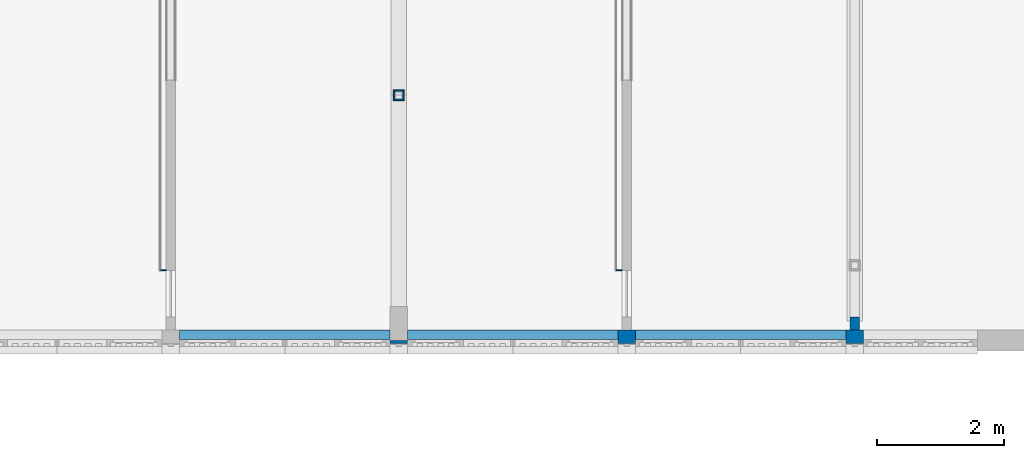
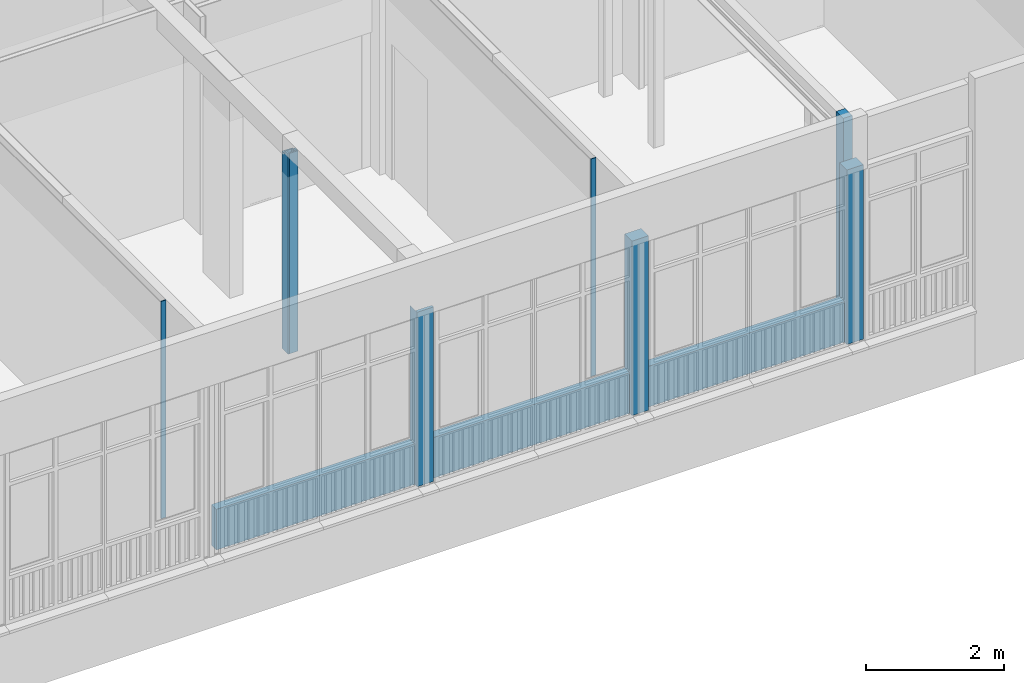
# One storey, part 93 of 135: 13 walls.
"""IFC2X3 building model written with IfcOpenShell, lengths in millimetres."""

from ifc_helpers import new_model, entity, si_unit, converted_unit, derived_unit, money_unit, direction, frame, origin_with_axes, place, context, subcontext, project, spatial, faceted_brep, material, type_object, element, save


model = new_model("IFC2X3")

# Units and contexts
model_context = context("Model", 3, precision=0.01, world=origin_with_axes(), true_north=direction((0.0, 1.0)))
body_context = subcontext(model_context, "Body", "Model", "MODEL_VIEW")
ifc_project = project(units=[si_unit("LENGTHUNIT", "METRE", prefix="MILLI"), si_unit("AREAUNIT", "SQUARE_METRE"), si_unit("VOLUMEUNIT", "CUBIC_METRE"), converted_unit("PLANEANGLEUNIT", "DEGREE", entity("IfcPlaneAngleMeasure", 0.0174532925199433), si_unit("PLANEANGLEUNIT", "RADIAN"), dimensions=[0, 0, 0, 0, 0, 0, 0]), money_unit("EUR"), converted_unit("TIMEUNIT", "Year", entity("IfcTimeMeasure", 31557600.0), si_unit("TIMEUNIT", "SECOND"), dimensions=[0, 0, 1, 0, 0, 0, 0]), si_unit("MASSUNIT", "GRAM", prefix="KILO"), si_unit("THERMODYNAMICTEMPERATUREUNIT", "DEGREE_CELSIUS"), si_unit("LUMINOUSINTENSITYUNIT", "LUMEN"), si_unit("ENERGYUNIT", "JOULE", prefix="MEGA"), derived_unit("THERMALCONDUCTANCEUNIT", [(si_unit("POWERUNIT", "WATT"), 1), (si_unit("LENGTHUNIT", "METRE"), -1), (si_unit("THERMODYNAMICTEMPERATUREUNIT", "KELVIN"), -1)]), derived_unit("SPECIFICHEATCAPACITYUNIT", [(si_unit("ENERGYUNIT", "JOULE"), 1), (si_unit("MASSUNIT", "GRAM", prefix="KILO"), -1), (si_unit("THERMODYNAMICTEMPERATUREUNIT", "KELVIN"), -1)]), derived_unit("MASSDENSITYUNIT", [(si_unit("MASSUNIT", "GRAM", prefix="KILO"), 1), (si_unit("VOLUMEUNIT", "CUBIC_METRE"), -1)])], contexts=[model_context])

# Site, building, storey
site_placement = place(None, origin_with_axes())
site = spatial("IfcSite", under=ifc_project, at=site_placement, Name="Site", CompositionType="ELEMENT")
building_placement = place(site_placement, origin_with_axes())
building = spatial("IfcBuilding", under=site, at=building_placement, Name="Naam gebouw", CompositionType="ELEMENT")
storey_placement = place(building_placement, origin_with_axes())
storey = spatial("IfcBuildingStorey", under=building, at=storey_placement, Name="Begane grond N", CompositionType="ELEMENT", Elevation=0.0)

# Walls
ifc_material_1 = material(Name="ALG - CONSTRUCTIEF")
wall_type_1 = type_object("IfcWallType", Name="ALG - CONSTRUCTIEF 150", PredefinedType="NOTDEFINED")
wall_1_placement = place(storey_placement, frame((54000.0, 10825.91242510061, -100.0), z_axis=(0.0, 0.0, 1.0), x_axis=(0.0, 1.0, 0.0)))
element("IfcWall", 1, at=wall_1_placement, inside=storey, type_object=wall_type_1, material=ifc_material_1, Name="_Wand-x", context=body_context, shape_type="Brep", body=[
    faceted_brep([(374.9999999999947, 75.00000000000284, 100.0), (374.9999999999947, 75.00000000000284, 3950.0), (374.9999999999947, -75.00000000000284, 3950.0), (374.9999999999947, -75.00000000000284, 100.0), (165.0000000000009, 75.00000000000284, 100.0), (164.9999999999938, 75.00000000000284, 3950.0), (164.9999999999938, -75.00000000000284, 3950.0), (165.0000000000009, -75.00000000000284, 100.0)], [[[0, 1, 2, 3]], [[4, 5, 1, 0]], [[5, 6, 2, 1]], [[3, 2, 6, 7]], [[4, 0, 3, 7]], [[7, 6, 5, 4]]]),
])
wall_type_2 = type_object("IfcWallType", Name="ALG - CONSTRUCTIEF 146", PredefinedType="NOTDEFINED")
wall_2_placement = place(storey_placement, frame((50262.49999999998, 10990.91242510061, 0.0), z_axis=(0.0, 0.0, 1.0), x_axis=(-1.0, 0.0, 0.0)))
element("IfcWall", 2, at=wall_2_placement, inside=storey, type_object=wall_type_2, material=ifc_material_1, Name="_Wand-x", context=body_context, shape_type="Brep", body=[
    faceted_brep([(0.0, 146.0000000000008, 0.0), (3323.134820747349, 145.999999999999, 0.0), (3323.134820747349, 0.0, 0.0), (0.0, 0.0, 0.0), (0.0, 146.0000000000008, 720.0000000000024), (3323.134820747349, 145.999999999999, 720.0000000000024), (3323.134820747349, 0.0, 720.0000000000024), (0.0, 0.0, 720.0000000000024)], [[[0, 1, 2, 3]], [[4, 5, 1, 0]], [[2, 1, 5, 6]], [[3, 2, 6, 7]], [[4, 0, 3, 7]], [[7, 6, 5, 4]]]),
])
wall_3_placement = place(storey_placement, frame((46662.49999999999, 10990.91242510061, 0.0), z_axis=(0.0, 0.0, 1.0), x_axis=(-1.0, 0.0, 0.0)))
element("IfcWall", 3, at=wall_3_placement, inside=storey, type_object=wall_type_2, material=ifc_material_1, Name="_Wand-x", context=body_context, shape_type="Brep", body=[
    faceted_brep([(0.0, 146.0000000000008, 0.0), (3325.00000000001, 145.999999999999, 0.0), (3325.00000000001, 0.0, 0.0), (0.0, 0.0, 0.0), (0.0, 146.0000000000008, 720.0000000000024), (3325.00000000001, 145.999999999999, 720.0000000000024), (3325.00000000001, 0.0, 720.0000000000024), (0.0, 0.0, 720.0000000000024)], [[[0, 1, 2, 3]], [[4, 5, 1, 0]], [[2, 1, 5, 6]], [[3, 2, 6, 7]], [[4, 0, 3, 7]], [[7, 6, 5, 4]]]),
])
wall_4_placement = place(storey_placement, frame((53862.49999999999, 10990.91242510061, 0.0), z_axis=(0.0, 0.0, 1.0), x_axis=(-1.0, 0.0, 0.0)))
element("IfcWall", 4, at=wall_4_placement, inside=storey, type_object=wall_type_2, material=ifc_material_1, Name="_Wand-x", context=body_context, shape_type="Brep", body=[
    faceted_brep([(0.0, 146.0000000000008, 0.0), (3324.999999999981, 145.999999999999, 0.0), (3324.999999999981, 0.0, 0.0), (0.0, 0.0, 0.0), (0.0, 146.0000000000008, 720.0000000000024), (3324.999999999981, 145.999999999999, 720.0000000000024), (3324.999999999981, 0.0, 720.0000000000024), (0.0, 0.0, 720.0000000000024)], [[[0, 1, 2, 3]], [[4, 5, 1, 0]], [[2, 1, 5, 6]], [[3, 2, 6, 7]], [[4, 0, 3, 7]], [[7, 6, 5, 4]]]),
])
ifc_material_2 = material(Name="Gipsplaat")
wall_type_3 = type_object("IfcWallType", Name="Metalstud 100 enkel 100", PredefinedType="NOTDEFINED")
for number, where, z_axis, x_axis, name in (
    (5, (43125.0, 11930.91242510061, 0.0), (0.0, 0.0, 1.0), (-1.0, 0.0, 0.0), "_Wand-x"),
    (6, (50324.99999999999, 11930.91242510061, 0.0), (0.0, 0.0, 1.0), (-1.0, 0.0, 0.0), "_Wand-x"),
):
    element("IfcWall", number, at=place(storey_placement, frame(where, z_axis=z_axis, x_axis=x_axis)), inside=storey, type_object=wall_type_3, material=ifc_material_2, Name=name, context=body_context, shape_type="Brep", body=[
        faceted_brep([(87.49999999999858, -12.49999999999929, 0.0), (87.49999999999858, -12.49999999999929, 3850.0), (0.0, -12.49999999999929, 3850.0), (0.0, -12.49999999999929, 0.0), (87.49999999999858, 0.0, 0.0), (87.49999999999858, 0.0, 3850.0), (0.0, 0.0, 3850.0), (0.0, 0.0, 0.0)], [[[0, 1, 2, 3]], [[4, 5, 1, 0]], [[5, 6, 2, 1]], [[3, 2, 6, 7]], [[7, 4, 0, 3]], [[7, 6, 5, 4]]]),
    ])
wall_type_4 = type_object("IfcWallType", Name="Gipsplaat 25", PredefinedType="NOTDEFINED")
wall_5_placement = place(storey_placement, frame((46885.0, 14614.30701541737, 0.0), z_axis=(0.0, 0.0, 1.0), x_axis=(0.0, 1.0, 0.0)))
element("IfcWall", 7, at=wall_5_placement, inside=storey, type_object=wall_type_4, material=ifc_material_2, Name="_Wand-x", context=body_context, shape_type="Brep", body=[
    faceted_brep([(145.0000000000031, 25.00000000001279, 0.0), (145.0000000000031, 25.00000000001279, 3500.0), (145.0000000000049, 0.0, 3500.0), (145.0000000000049, 0.0, 0.0), (85.5350304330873, 25.00000000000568, 3550.0), (85.5350304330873, 25.00000000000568, 3500.0), (25.00000000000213, 24.99999999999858, 0.0), (25.00000000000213, 24.99999999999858, 3550.0), (85.53503043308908, 0.0, 3500.0), (85.53503043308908, 0.0, 3550.0), (25.00000000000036, 0.0, 3550.0), (25.00000000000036, 0.0, 0.0)], [[[0, 1, 2, 3]], [[4, 5, 1, 0, 6, 7]], [[5, 8, 2, 1]], [[2, 8, 9, 10, 11, 3]], [[6, 0, 3, 11]], [[5, 4, 9, 8]], [[10, 7, 6, 11]], [[10, 9, 4, 7]]]),
])
wall_6_placement = place(storey_placement, frame((46715.0, 14614.30701541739, 0.0), z_axis=(0.0, 0.0, 1.0), x_axis=(1.0, 0.0, 0.0)))
element("IfcWall", 8, at=wall_6_placement, inside=storey, type_object=wall_type_4, material=ifc_material_2, Name="_Wand-x", context=body_context, shape_type="Brep", body=[
    faceted_brep([(169.9999999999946, 25.00000000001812, 0.0), (169.9999999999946, 0.0, 0.0), (24.99999999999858, 0.0, 0.0), (24.99999999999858, 25.00000000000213, 0.0), (169.9999999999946, 25.00000000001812, 3550.0), (169.9999999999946, 0.0, 3550.0), (24.99999999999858, 0.0, 3550.0), (24.99999999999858, 25.00000000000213, 3550.0)], [[[0, 1, 2, 3]], [[1, 0, 4, 5]], [[1, 5, 6, 2]], [[7, 3, 2, 6]], [[4, 0, 3, 7]], [[5, 4, 7, 6]]]),
])
wall_7_placement = place(storey_placement, frame((46715.0, 14614.30701541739, 0.0), z_axis=(0.0, 0.0, 1.0), x_axis=(0.0, 1.0, 0.0)))
element("IfcWall", 9, at=wall_7_placement, inside=storey, type_object=wall_type_4, material=ifc_material_2, Name="_Wand-x", context=body_context, shape_type="Brep", body=[
    faceted_brep([(169.999999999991, 0.0, 0.0), (169.999999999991, 0.0, 3500.0), (169.999999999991, -24.99999999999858, 3500.0), (169.999999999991, -24.99999999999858, 0.0), (85.53503043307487, 0.0, 3550.0), (85.53503043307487, 0.0, 3500.0), (0.0, 0.0, 0.0), (0.0, 0.0, 3550.0), (85.53503043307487, -24.99999999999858, 3500.0), (85.53503043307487, -24.99999999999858, 3550.0), (0.0, -24.99999999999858, 3550.0), (0.0, -24.99999999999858, 0.0)], [[[0, 1, 2, 3]], [[4, 5, 1, 0, 6, 7]], [[5, 8, 2, 1]], [[2, 8, 9, 10, 11, 3]], [[6, 0, 3, 11]], [[5, 4, 9, 8]], [[6, 11, 10, 7]], [[10, 9, 4, 7]]]),
])
wall_8_placement = place(storey_placement, frame((46715.0, 14784.30701541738, 0.0), z_axis=(0.0, 0.0, 1.0), x_axis=(1.0, 0.0, 0.0)))
element("IfcWall", 10, at=wall_8_placement, inside=storey, type_object=wall_type_4, material=ifc_material_2, Name="_Wand-x", context=body_context, shape_type="Brep", body=[
    faceted_brep([(24.99999999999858, 0.0, 0.0), (24.99999999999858, 0.0, 3500.0), (170.0000000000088, 0.0, 3500.0), (170.0000000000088, 0.0, 0.0), (24.99999999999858, -25.00000000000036, 0.0), (24.99999999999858, -25.00000000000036, 3500.0), (170.0000000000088, -25.00000000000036, 3500.0), (170.0000000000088, -25.00000000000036, 0.0)], [[[0, 1, 2, 3]], [[4, 5, 1, 0]], [[5, 6, 2, 1]], [[3, 2, 6, 7]], [[0, 3, 7, 4]], [[7, 6, 5, 4]]]),
])
ifc_material_3 = material(Name="ALG - GEVEL")
wall_type_5 = type_object("IfcWallType", Name="ALG - GEVEL 260", PredefinedType="NOTDEFINED")
wall_9_placement = place(storey_placement, frame((50537.49999999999, 10730.9124251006, 0.0), z_axis=(0.0, 0.0, 1.0), x_axis=(-1.0, 0.0, 0.0)))
element("IfcWall", 11, at=wall_9_placement, inside=storey, type_object=wall_type_5, material=ifc_material_3, Name="_Wand-x", context=body_context, shape_type="Brep", body=[
    faceted_brep([(275.0000000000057, -44.00000000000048, 3090.000000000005), (0.0, -44.00000000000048, 3090.000000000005), (0.0, -259.9999999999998, 3090.0), (275.0000000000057, -259.9999999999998, 3090.0), (275.0000000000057, -44.00000000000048, 0.0), (0.0, -44.00000000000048, 0.0), (0.0, -259.9999999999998, 0.0), (275.0000000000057, -259.9999999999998, 0.0)], [[[0, 1, 2, 3]], [[0, 4, 5, 1]], [[2, 1, 5, 6]], [[2, 6, 7, 3]], [[7, 4, 0, 3]], [[5, 4, 7, 6]]]),
])
wall_10_placement = place(storey_placement, frame((46937.5, 10730.9124251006, 0.0), z_axis=(0.0, 0.0, 1.0), x_axis=(-1.0, 0.0, 0.0)))
element("IfcWall", 12, at=wall_10_placement, inside=storey, type_object=wall_type_5, material=ifc_material_3, Name="_Wand-x", context=body_context, shape_type="Brep", body=[
    faceted_brep([(274.9990737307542, -95.49982574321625, 0.0), (275.0000000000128, -44.00000000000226, 0.0), (275.0000000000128, -44.00000000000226, 3090.000000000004), (274.9990737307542, -95.49982574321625, 3089.999999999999), (0.0, -44.00000000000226, 0.0), (0.0, -94.55057574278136, 0.0), (0.0, -44.00000000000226, 3090.000000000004), (0.0, -94.55057574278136, 3089.999999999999)], [[[0, 1, 2, 3]], [[4, 1, 0, 5]], [[6, 2, 1, 4]], [[7, 3, 2, 6]], [[5, 0, 3, 7]], [[6, 4, 5, 7]]]),
    faceted_brep([(274.4312471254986, -259.9999999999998, 3089.999999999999), (274.9990737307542, -95.49982574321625, 3089.999999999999), (274.9990737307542, -95.49982574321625, 0.0), (274.4312471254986, -259.9999999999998, 0.0), (275.0000000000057, -259.9999999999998, 3089.999999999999), (275.0000000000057, -259.9999999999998, 0.0)], [[[0, 1, 2, 3]], [[0, 4, 1]], [[5, 2, 1, 4]], [[5, 3, 2]], [[3, 5, 4, 0]]]),
])
wall_11_placement = place(storey_placement, frame((54137.49999999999, 10730.9124251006, 0.0), z_axis=(0.0, 0.0, 1.0), x_axis=(-1.0, 0.0, 0.0)))
element("IfcWall", 13, at=wall_11_placement, inside=storey, type_object=wall_type_5, material=ifc_material_3, Name="_Wand-x", context=body_context, shape_type="Brep", body=[
    faceted_brep([(274.9999999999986, -44.00000000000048, 3090.000000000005), (0.0, -44.00000000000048, 3090.000000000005), (0.0, -259.9999999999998, 3090.0), (275.0000000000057, -259.9999999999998, 3090.0), (274.9999999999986, -44.00000000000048, 0.0), (0.0, -44.00000000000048, 0.0), (0.0, -259.9999999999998, 0.0), (275.0000000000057, -259.9999999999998, 0.0)], [[[0, 1, 2, 3]], [[0, 4, 5, 1]], [[2, 1, 5, 6]], [[2, 6, 7, 3]], [[7, 4, 0, 3]], [[5, 4, 7, 6]]]),
])

save(model, "model.ifc")
